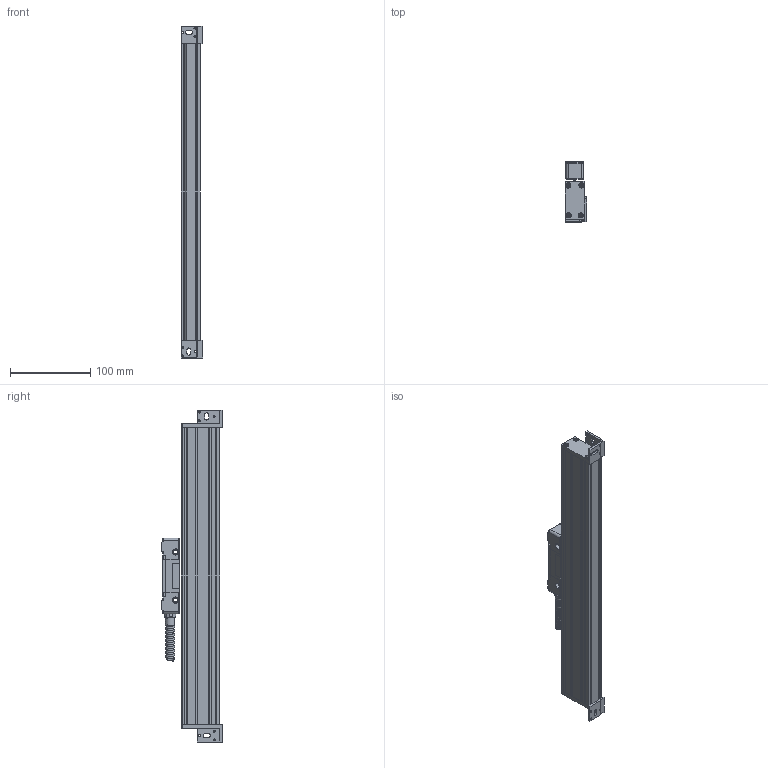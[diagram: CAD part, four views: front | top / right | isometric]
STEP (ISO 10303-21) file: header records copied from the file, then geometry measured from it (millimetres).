
FILE_DESCRIPTION (( 'STEP AP214' ), '1' );
FILE_NAME ('MLC310x0250.STEP', '2021-05-08T11:47:17', ( '' ), ( '' ), 'SwSTEP 2.0', 'SolidWorks 2014', '' );
FILE_SCHEMA (( 'AUTOMOTIVE_DESIGN' ));
Length unit declared in the file: millimetre
Products named in the file (1): MLC310x0250
Bounding box: 27 x 75.15 x 414 mm (x, y, z)
Surface area: 86336.1 mm2 (no closed solid volume)
Topology: 0 solids, 20 shells, 459 faces, 1706 edges, 1253 vertices
Faces by surface type: plane 184, cylinder 149, cone 83, bspline 33, torus 10
Entity records: 34030 total; most frequent: CARTESIAN_POINT 14663, DIRECTION 2922, ORIENTED_EDGE 2812, EDGE_CURVE 1698, VERTEX_POINT 1253, AXIS2_PLACEMENT_3D 1016, LINE 890, VECTOR 890
